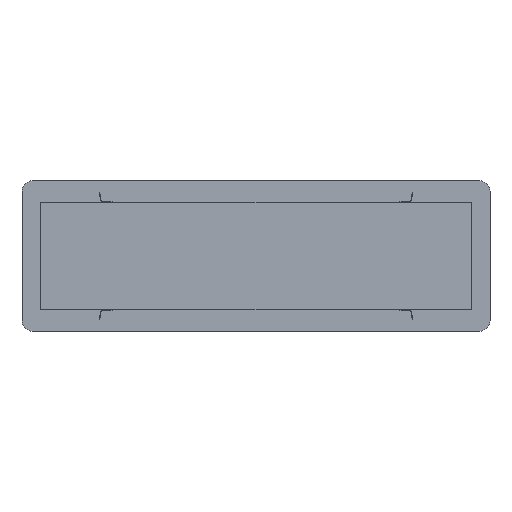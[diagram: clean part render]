
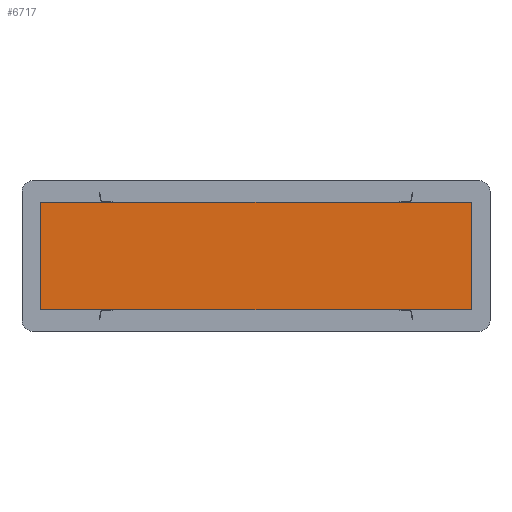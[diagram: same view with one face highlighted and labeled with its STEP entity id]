
A CAD part, front view. The second image highlights one B-rep face of the part: STEP entity #6717.
In plain terms, the highlighted planar face has unit normal (0, -1, 0).
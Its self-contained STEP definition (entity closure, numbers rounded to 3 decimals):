
#158 = AXIS2_PLACEMENT_3D ( 'NONE', #2614, #3725, #10943 ) ;
#254 = DIRECTION ( 'NONE',  ( 0., 0., 1. ) ) ;
#294 = EDGE_CURVE ( 'NONE', #9637, #13529, #2136, .T. ) ;
#481 = ORIENTED_EDGE ( 'NONE', *, *, #8301, .T. ) ;
#708 = EDGE_CURVE ( 'NONE', #5534, #1789, #10364, .T. ) ;
#1280 = FACE_OUTER_BOUND ( 'NONE', #10873, .T. ) ;
#1789 = VERTEX_POINT ( 'NONE', #12415 ) ;
#2136 = LINE ( 'NONE', #6927, #9856 ) ;
#2614 = CARTESIAN_POINT ( 'NONE',  ( 0., -416.5, 0. ) ) ;
#2826 = VECTOR ( 'NONE', #13981, 1000. ) ;
#3725 = DIRECTION ( 'NONE',  ( 0., -1., 0. ) ) ;
#3930 = VECTOR ( 'NONE', #254, 1000. ) ;
#4085 = CARTESIAN_POINT ( 'NONE',  ( -600., -416.5, -150. ) ) ;
#4280 = LINE ( 'NONE', #11326, #3930 ) ;
#4969 = CARTESIAN_POINT ( 'NONE',  ( 600., -416.5, 150. ) ) ;
#5534 = VERTEX_POINT ( 'NONE', #4969 ) ;
#5874 = VECTOR ( 'NONE', #12120, 1000. ) ;
#6717 = ADVANCED_FACE ( 'NONE', ( #1280 ), #14633, .T. ) ;
#6908 = CARTESIAN_POINT ( 'NONE',  ( 600., -416.5, 150. ) ) ;
#6927 = CARTESIAN_POINT ( 'NONE',  ( 600., -416.5, -150. ) ) ;
#7084 = LINE ( 'NONE', #14545, #5874 ) ;
#8301 = EDGE_CURVE ( 'NONE', #13529, #5534, #4280, .T. ) ;
#9237 = ORIENTED_EDGE ( 'NONE', *, *, #708, .T. ) ;
#9637 = VERTEX_POINT ( 'NONE', #4085 ) ;
#9856 = VECTOR ( 'NONE', #11813, 1000. ) ;
#10364 = LINE ( 'NONE', #6908, #2826 ) ;
#10873 = EDGE_LOOP ( 'NONE', ( #14179, #11910, #481, #9237 ) ) ;
#10943 = DIRECTION ( 'NONE',  ( 0., 0., -1. ) ) ;
#11326 = CARTESIAN_POINT ( 'NONE',  ( 600., -416.5, -150. ) ) ;
#11813 = DIRECTION ( 'NONE',  ( 1., 0., 0. ) ) ;
#11910 = ORIENTED_EDGE ( 'NONE', *, *, #294, .T. ) ;
#12120 = DIRECTION ( 'NONE',  ( 0., 0., -1. ) ) ;
#12415 = CARTESIAN_POINT ( 'NONE',  ( -600., -416.5, 150. ) ) ;
#13529 = VERTEX_POINT ( 'NONE', #13923 ) ;
#13632 = EDGE_CURVE ( 'NONE', #1789, #9637, #7084, .T. ) ;
#13923 = CARTESIAN_POINT ( 'NONE',  ( 600., -416.5, -150. ) ) ;
#13981 = DIRECTION ( 'NONE',  ( -1., 0., 0. ) ) ;
#14179 = ORIENTED_EDGE ( 'NONE', *, *, #13632, .T. ) ;
#14545 = CARTESIAN_POINT ( 'NONE',  ( -600., -416.5, -150. ) ) ;
#14633 = PLANE ( 'NONE',  #158 ) ;
